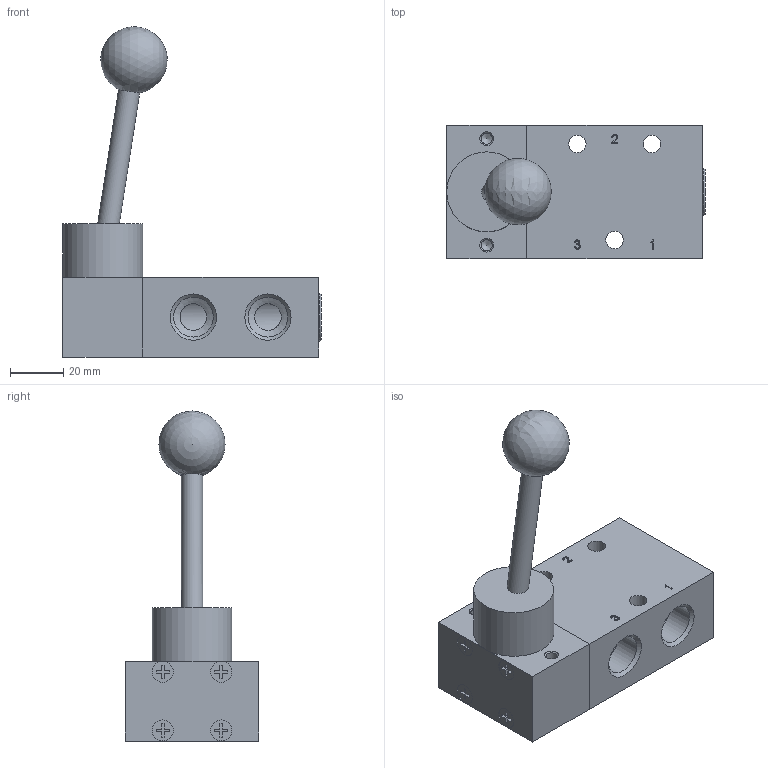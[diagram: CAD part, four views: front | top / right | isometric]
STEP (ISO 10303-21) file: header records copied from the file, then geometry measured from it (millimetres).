
FILE_DESCRIPTION(/* description */ ('Unknown','CAx-IF Rec.Pracs.---Representation and Presentation of Product Manufacturing Information (PMI)---4.0---2014-10-13','CAx-IF Rec.Pracs.---3D Tessellated Geometry---0.4---2014-09-14','2;1'),/* implementation_level */ '2;1');
FILE_NAME(/* name */ 'HVR 320 101',/* time_stamp */ '2019-06-13T09:43:02+02:00',/* author */ ('Unknown'),/* organization */ ('Unknown'),/* preprocessor_version */ 'ST-DEVELOPER v16.7',/* originating_system */ 'DEX',/* authorisation */ $);
FILE_SCHEMA (('AP242_MANAGED_MODEL_BASED_3D_ENGINEERING_MIM_LF { 1 0 10303 442 20130219 1 4 }'));
Length unit declared in the file: millimetre
Products named in the file (2): HVR 320 101
Assembly tree (1 placements, depth 2):
  HVR 320 101
    HVR 320 101
Bounding box: 97 x 50 x 123.88 mm (x, y, z)
Volume: 138452.4 mm3; surface area: 36394.7 mm2
Topology: 3 solids, 7 shells, 194 faces, 485 edges, 319 vertices
Faces by surface type: plane 112, cylinder 39, cone 27, bspline 14, sphere 1, torus 1
Full cylindrical faces by diameter (mm): 1.6 x1, 3.242 x8, 4.134 x4, 6.6 x3, 7.9 x4, 8 x1, 10 x3, 13 x1, 14 x1, 14.95 x6, 17 x2, 17.06 x1, 18 x1, 30 x1
Entity records: 7208 total; most frequent: CARTESIAN_POINT 1734, DIRECTION 800, ORIENTED_EDGE 762, EDGE_CURVE 381, FACE_BOUND 300, VERTEX_POINT 291, EDGE_LOOP 290, AXIS2_PLACEMENT_3D 268
